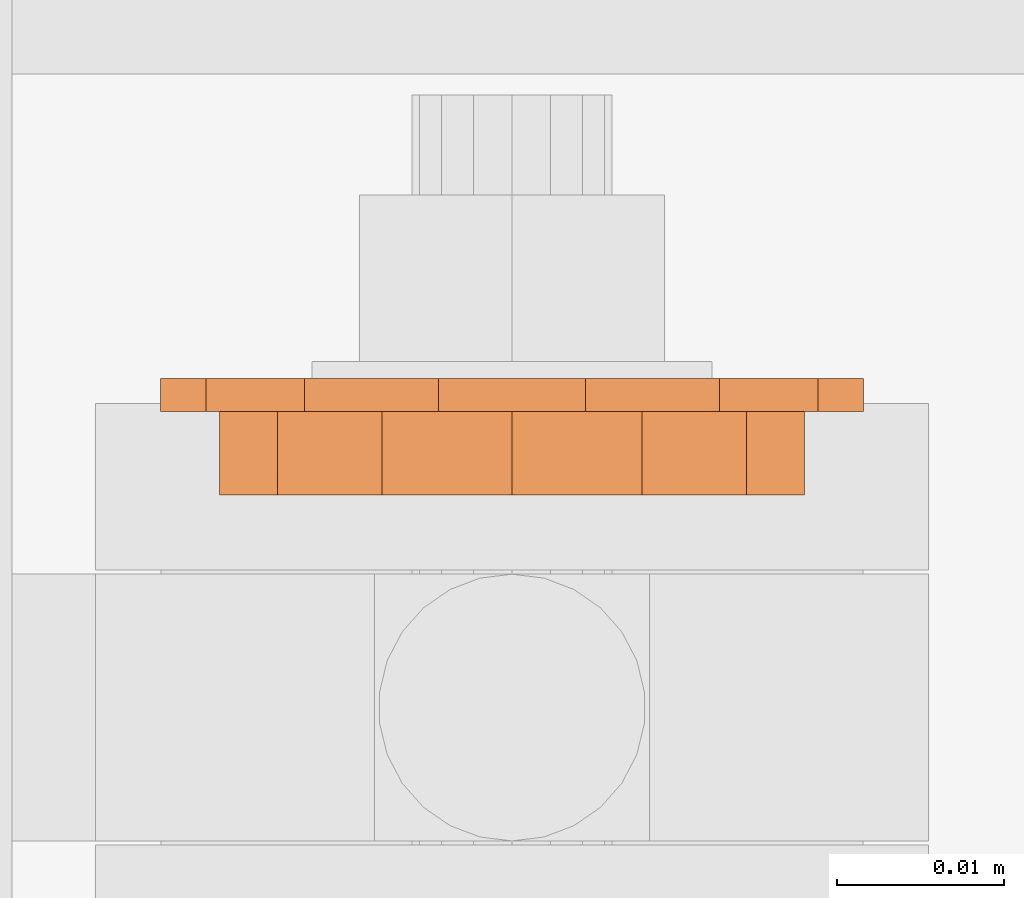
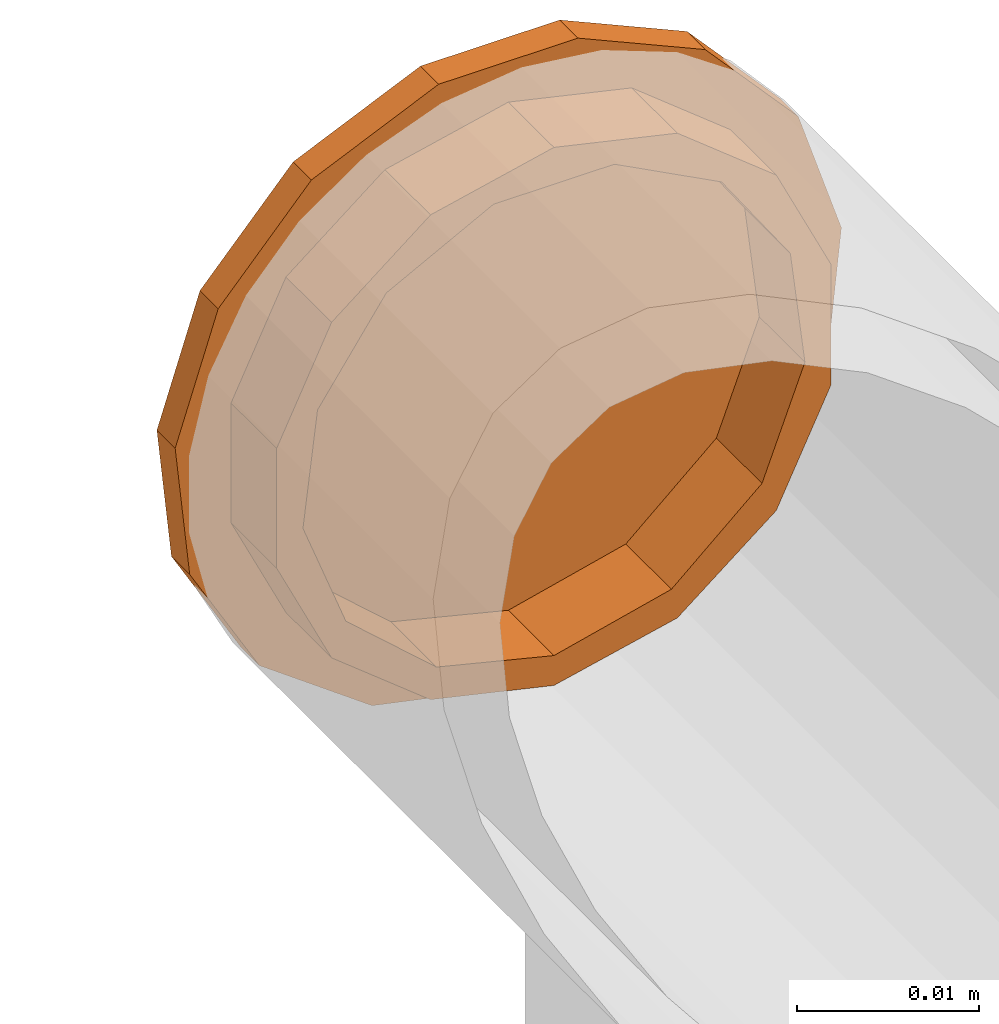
# One storey, part 98 of 98: 1 proxy.
"""IFC2X3 building model written with IfcOpenShell, lengths in millimetres."""

from ifc_helpers import new_model, entity, si_unit, converted_unit, origin_with_axes, place, context, project, spatial, faceted_brep, material, element, save


model = new_model("IFC2X3")

# Units and contexts
model_context = context("Model", 3, precision=1e-09, world=origin_with_axes())
ifc_project = project(units=[si_unit("LENGTHUNIT", "METRE", prefix="MILLI"), si_unit("AREAUNIT", "SQUARE_METRE"), si_unit("VOLUMEUNIT", "CUBIC_METRE"), converted_unit("PLANEANGLEUNIT", "DEGREE", entity("IfcPlaneAngleMeasure", 0.01745329), si_unit("PLANEANGLEUNIT", "RADIAN"), dimensions=[0, 0, 0, 0, 0, 0, 0])], contexts=[model_context])

# Site, building, storey
site_placement = place(None, origin_with_axes())
site = spatial("IfcSite", under=ifc_project, at=site_placement, Name="Maybachstra?e 2, 71563 Affalterbach", CompositionType="ELEMENT")
building_placement = place(site_placement, origin_with_axes())
building = spatial("IfcBuilding", under=site, at=building_placement, Name="Struktur 1", CompositionType="ELEMENT")
storey_placement = place(building_placement, origin_with_axes())
storey = spatial("IfcBuildingStorey", under=building, at=storey_placement, Name="Default Storey", CompositionType="ELEMENT", Elevation=0.0)

# Proxy
ifc_material = material(Name="1.4301")
proxy_placement = place(None, origin_with_axes())
element("IfcBuildingElementProxy", 1, at=proxy_placement, inside=storey, material=ifc_material, ObjectType="-", context=model_context, shape_type="Brep", body=[
    faceted_brep([(7338.029157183, 1274.75, 8752.599999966), (7338.029157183, 1276.75, 8752.599999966), (7346.651974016, 1276.75, 8754.432836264), (7346.651974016, 1274.75, 8754.432836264), (7319.669418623, 1276.75, 8784.399999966), (7325.568109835, 1276.75, 8790.951160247), (7333.621429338, 1276.75, 8794.536729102), (7342.436885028, 1276.75, 8794.536729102), (7350.490204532, 1276.75, 8790.951160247), (7356.388895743, 1276.75, 8784.399999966), (7359.113021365, 1276.75, 8776.016003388), (7358.191555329, 1276.75, 8767.248839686), (7353.783827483, 1276.75, 8759.614431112), (7329.40634035, 1276.75, 8754.432836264), (7322.274486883, 1276.75, 8759.614431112), (7317.866759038, 1276.75, 8767.248839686), (7316.945293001, 1276.75, 8776.016003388), (7329.40634035, 1274.75, 8754.432836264), (7350.490204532, 1274.75, 8790.951160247), (7342.436885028, 1274.75, 8794.536729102), (7333.621429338, 1274.75, 8794.536729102), (7325.568109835, 1274.75, 8790.951160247), (7319.669418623, 1274.75, 8784.399999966), (7316.945293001, 1274.75, 8776.016003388), (7317.866759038, 1274.75, 8767.248839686), (7322.274486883, 1274.75, 8759.614431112), (7353.783827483, 1274.75, 8759.614431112), (7358.191555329, 1274.75, 8767.248839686), (7359.113021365, 1274.75, 8776.016003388), (7356.388895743, 1274.75, 8784.399999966)], [[[0, 1, 2, 3]], [[4, 5, 6, 7, 8, 9, 10, 11, 12, 2, 1, 13, 14, 15, 16]], [[1, 0, 17, 13]], [[18, 19, 20, 21, 22, 23, 24, 25, 17, 0, 3, 26, 27, 28, 29]], [[3, 2, 12, 26]], [[13, 17, 25, 14]], [[26, 12, 11, 27]], [[14, 25, 24, 15]], [[27, 11, 10, 28]], [[15, 24, 23, 16]], [[28, 10, 9, 29]], [[16, 23, 22, 4]], [[29, 9, 8, 18]], [[4, 22, 21, 5]], [[18, 8, 7, 19]], [[19, 7, 6, 20]], [[5, 21, 20, 6]]]),
    faceted_brep([(7345.839064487, 1269.75, 8757.582560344), (7345.839064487, 1274.75, 8757.582560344), (7352.102123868, 1274.75, 8762.577183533), (7352.102123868, 1269.75, 8762.577183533), (7355.577859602, 1269.75, 8769.794623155), (7355.577859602, 1269.75, 8777.805376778), (7352.102123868, 1269.75, 8785.0228164), (7345.839064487, 1269.75, 8790.017439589), (7338.029157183, 1269.75, 8791.799999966), (7330.219249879, 1269.75, 8790.017439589), (7323.956190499, 1269.75, 8785.0228164), (7320.480454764, 1269.75, 8777.805376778), (7320.480454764, 1269.75, 8769.794623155), (7323.956190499, 1269.75, 8762.577183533), (7330.219249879, 1269.75, 8757.582560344), (7338.029157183, 1269.75, 8755.799999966), (7351.196899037, 1269.75, 8764.710964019), (7345.464727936, 1269.75, 8759.632703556), (7338.029157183, 1269.75, 8757.799999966), (7330.59358643, 1269.75, 8759.632703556), (7324.861415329, 1269.75, 8764.710964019), (7322.145815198, 1269.75, 8771.871413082), (7323.0688973, 1269.75, 8779.473678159), (7327.419194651, 1269.75, 8785.776171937), (7334.200106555, 1269.75, 8789.335069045), (7341.858207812, 1269.75, 8789.335069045), (7348.639119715, 1269.75, 8785.776171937), (7352.989417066, 1269.75, 8779.473678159), (7353.912499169, 1269.75, 8771.871413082), (7338.029157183, 1274.75, 8755.799999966), (7338.029157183, 1274.75, 8757.799999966), (7345.464727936, 1274.75, 8759.632703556), (7330.219249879, 1274.75, 8757.582560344), (7323.956190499, 1274.75, 8762.577183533), (7320.480454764, 1274.75, 8769.794623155), (7320.480454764, 1274.75, 8777.805376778), (7323.956190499, 1274.75, 8785.0228164), (7330.219249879, 1274.75, 8790.017439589), (7338.029157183, 1274.75, 8791.799999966), (7345.839064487, 1274.75, 8790.017439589), (7352.102123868, 1274.75, 8785.0228164), (7355.577859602, 1274.75, 8777.805376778), (7355.577859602, 1274.75, 8769.794623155), (7330.59358643, 1274.75, 8759.632703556), (7351.196899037, 1274.75, 8764.710964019), (7353.912499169, 1274.75, 8771.871413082), (7352.989417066, 1274.75, 8779.473678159), (7348.639119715, 1274.75, 8785.776171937), (7341.858207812, 1274.75, 8789.335069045), (7334.200106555, 1274.75, 8789.335069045), (7327.419194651, 1274.75, 8785.776171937), (7323.0688973, 1274.75, 8779.473678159), (7322.145815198, 1274.75, 8771.871413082), (7324.861415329, 1274.75, 8764.710964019)], [[[0, 1, 2, 3]], [[0, 3, 4, 5, 6, 7, 8, 9, 10, 11, 12, 13, 14, 15], [16, 17, 18, 19, 20, 21, 22, 23, 24, 25, 26, 27, 28]], [[1, 0, 15, 29]], [[30, 18, 17, 31]], [[29, 32, 33, 34, 35, 36, 37, 38, 39, 40, 41, 42, 2, 1], [43, 30, 31, 44, 45, 46, 47, 48, 49, 50, 51, 52, 53]], [[29, 15, 14, 32]], [[18, 30, 43, 19]], [[3, 2, 42, 4]], [[31, 17, 16, 44]], [[32, 14, 13, 33]], [[19, 43, 53, 20]], [[4, 42, 41, 5]], [[44, 16, 28, 45]], [[33, 13, 12, 34]], [[20, 53, 52, 21]], [[5, 41, 40, 6]], [[45, 28, 27, 46]], [[34, 12, 11, 35]], [[21, 52, 51, 22]], [[6, 40, 39, 7]], [[46, 27, 26, 47]], [[35, 11, 10, 36]], [[22, 51, 50, 23]], [[7, 39, 38, 8]], [[47, 26, 25, 48]], [[36, 10, 9, 37]], [[24, 49, 48, 25]], [[23, 50, 49, 24]], [[8, 38, 37, 9]]]),
])

save(model, "model.ifc")
